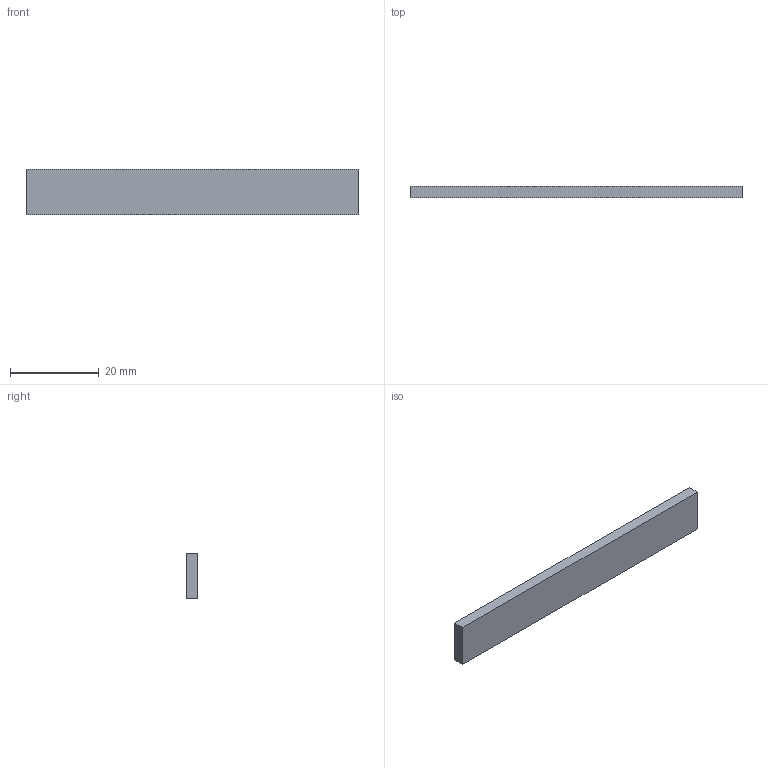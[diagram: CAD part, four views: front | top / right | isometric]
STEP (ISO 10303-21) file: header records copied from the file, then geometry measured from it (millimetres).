
FILE_DESCRIPTION(/* description */ (''),/* implementation_level */ '2;1');
FILE_NAME(/* name */ 'C:/Users/Ryan/Documents/AIO Robotics/CAD Files/LongFingerJoint.step',/* time_stamp */ '2017-02-04T20:52:00-08:00',/* author */ (''),/* organization */ (''),/* preprocessor_version */ 'ST-DEVELOPER v16.5',/* originating_system */ 'Autodesk Translation Framework v5.2.0.2920',/* authorisation */ '');
FILE_SCHEMA (('AUTOMOTIVE_DESIGN { 1 0 10303 214 3 1 1 }'));
Length unit declared in the file: inch
Products named in the file (1): LongFingerJoint v2
Bounding box: 74.73 x 2.54 x 10.16 mm (x, y, z)
Volume: 1928.4 mm3; surface area: 1949.7 mm2
Topology: 1 solids, 1 shells, 6 faces, 12 edges, 8 vertices
Faces by surface type: plane 6
Entity records: 180 total; most frequent: CARTESIAN_POINT 27, DIRECTION 26, ORIENTED_EDGE 24, LINE 12, VECTOR 12, EDGE_CURVE 12, VERTEX_POINT 8, AXIS2_PLACEMENT_3D 7
